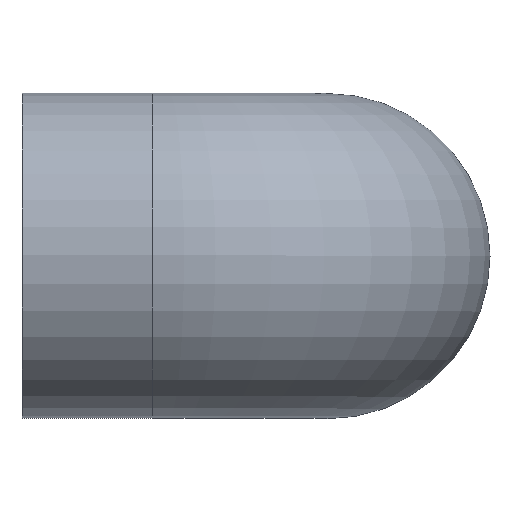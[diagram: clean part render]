
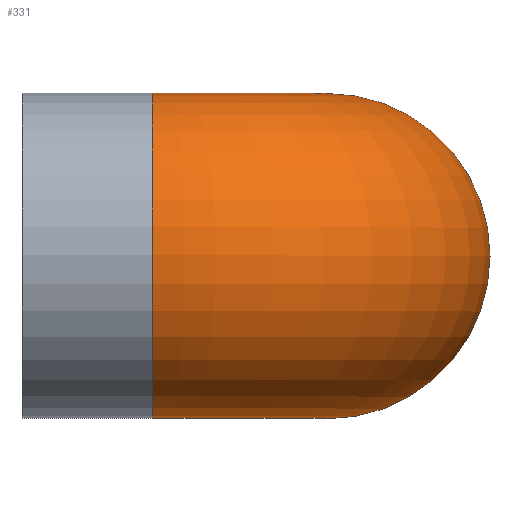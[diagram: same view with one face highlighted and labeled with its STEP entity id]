
A CAD part, top view. The second image highlights one B-rep face of the part: STEP entity #331.
In plain terms, the highlighted toroidal (fillet/blend) face has major radius 27 mm and minor radius 25 mm.
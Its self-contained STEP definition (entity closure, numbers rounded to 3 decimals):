
#19=FACE_BOUND('',#92,.T.);
#24=TOROIDAL_SURFACE('',#357,27.,25.);
#65=FACE_OUTER_BOUND('',#91,.T.);
#91=EDGE_LOOP('',(#287));
#92=EDGE_LOOP('',(#288));
#110=CIRCLE('',#356,25.);
#111=CIRCLE('',#358,25.);
#164=VERTEX_POINT('',#8012);
#165=VERTEX_POINT('',#8015);
#208=EDGE_CURVE('',#164,#164,#110,.T.);
#209=EDGE_CURVE('',#165,#165,#111,.T.);
#287=ORIENTED_EDGE('',*,*,#208,.F.);
#288=ORIENTED_EDGE('',*,*,#209,.T.);
#331=ADVANCED_FACE('',(#65,#19),#24,.T.);
#356=AXIS2_PLACEMENT_3D('',#8013,#409,#410);
#357=AXIS2_PLACEMENT_3D('',#8014,#411,#412);
#358=AXIS2_PLACEMENT_3D('',#8016,#413,#414);
#409=DIRECTION('center_axis',(-1.,0.,0.));
#410=DIRECTION('ref_axis',(0.,0.,-1.));
#411=DIRECTION('center_axis',(0.,-1.,0.));
#412=DIRECTION('ref_axis',(0.,0.,-1.));
#413=DIRECTION('center_axis',(0.,0.,1.));
#414=DIRECTION('ref_axis',(-1.,0.,0.));
#8012=CARTESIAN_POINT('',(-27.,0.,72.));
#8013=CARTESIAN_POINT('Origin',(-27.,0.,47.));
#8014=CARTESIAN_POINT('Origin',(-27.,0.,20.));
#8015=CARTESIAN_POINT('',(25.,0.,20.));
#8016=CARTESIAN_POINT('Origin',(0.,0.,20.));
